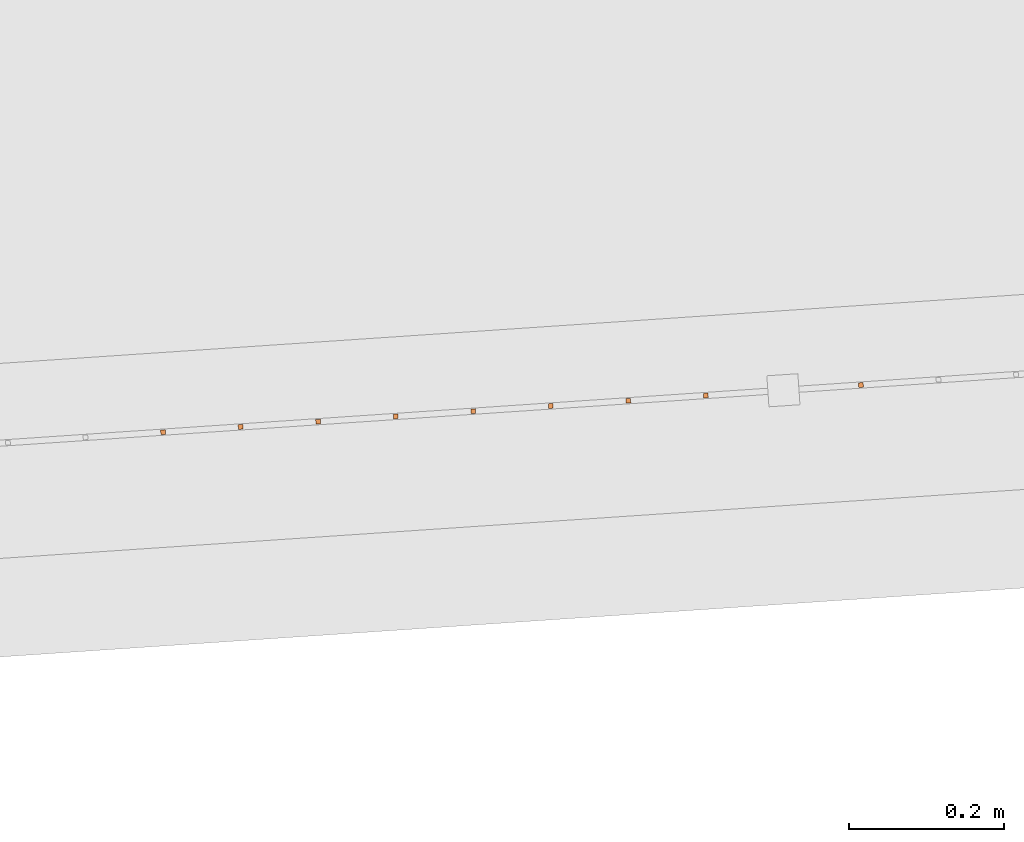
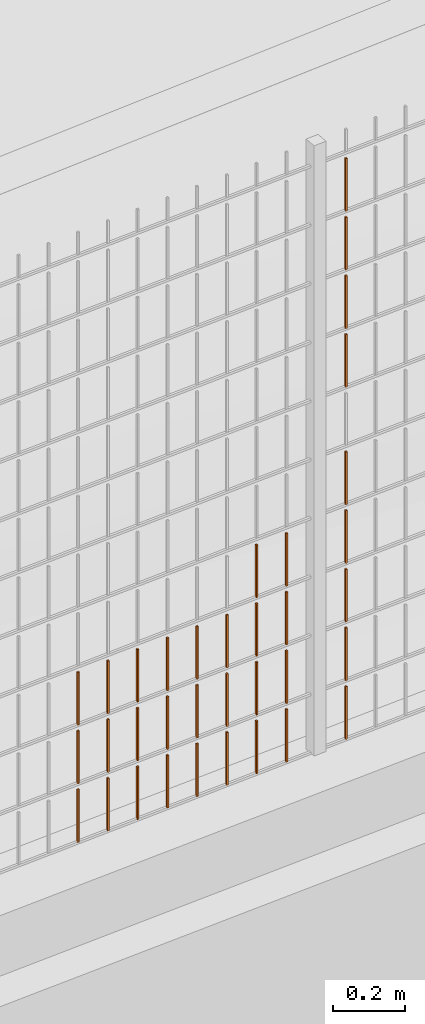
# One storey, part 392 of 1809: 35 proxies, 1 element without a shape of its own.
"""IFC2X3 building model written with IfcOpenShell, lengths in millimetres."""

from ifc_helpers import new_model, entity, si_unit, converted_unit, derived_unit, money_unit, direction, frame, origin_with_axes, place, context, subcontext, project, spatial, faceted_brep, source, transform, mapped, material, type_object, element, aggregate, save


model = new_model("IFC2X3")

# Units and contexts
model_context = context("Model", 3, precision=0.01, world=origin_with_axes(), true_north=direction((0.0, 1.0)))
body_context = subcontext(model_context, "Body", "Model", "MODEL_VIEW")
ifc_project = project(units=[si_unit("LENGTHUNIT", "METRE", prefix="MILLI"), si_unit("AREAUNIT", "SQUARE_METRE"), si_unit("VOLUMEUNIT", "CUBIC_METRE"), converted_unit("PLANEANGLEUNIT", "DEGREE", entity("IfcPlaneAngleMeasure", 0.0174532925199), si_unit("PLANEANGLEUNIT", "RADIAN"), dimensions=[0, 0, 0, 0, 0, 0, 0]), si_unit("SOLIDANGLEUNIT", "STERADIAN"), money_unit("EUR"), converted_unit("TIMEUNIT", "Year", entity("IfcTimeMeasure", 31556926.0), si_unit("TIMEUNIT", "SECOND"), dimensions=[0, 0, 1, 0, 0, 0, 0]), si_unit("MASSUNIT", "GRAM", prefix="KILO"), si_unit("THERMODYNAMICTEMPERATUREUNIT", "DEGREE_CELSIUS"), si_unit("LUMINOUSINTENSITYUNIT", "LUMEN"), si_unit("ENERGYUNIT", "JOULE", prefix="MEGA"), derived_unit("THERMALCONDUCTANCEUNIT", [(si_unit("POWERUNIT", "WATT"), 1), (si_unit("LENGTHUNIT", "METRE"), -1), (si_unit("THERMODYNAMICTEMPERATUREUNIT", "KELVIN"), -1)]), derived_unit("SPECIFICHEATCAPACITYUNIT", [(si_unit("ENERGYUNIT", "JOULE"), 1), (si_unit("MASSUNIT", "GRAM", prefix="KILO"), -1), (si_unit("THERMODYNAMICTEMPERATUREUNIT", "KELVIN"), -1)]), derived_unit("MASSDENSITYUNIT", [(si_unit("MASSUNIT", "GRAM", prefix="KILO"), 1), (si_unit("VOLUMEUNIT", "CUBIC_METRE"), -1)])], contexts=[model_context])

# Site, building, storey
site_placement = place(None, origin_with_axes())
site = spatial("IfcSite", under=ifc_project, at=site_placement, Name="Politse- ja Piirivalveameti ning Päästeameti ühishoone", CompositionType="ELEMENT")
building_placement = place(site_placement, origin_with_axes())
building = spatial("IfcBuilding", under=site, at=building_placement, Name="Politse- ja Piirivalveameti ning Päästeameti ühishoone", CompositionType="ELEMENT")
storey_placement = place(building_placement, origin_with_axes())
storey = spatial("IfcBuildingStorey", under=building, at=storey_placement, Name="Esimene korrus", CompositionType="ELEMENT", Elevation=0.0)

# Proxies
building_element_proxy_type_1 = type_object("IfcBuildingElementProxyType", Name="Railing Type", PredefinedType="NOTDEFINED")
proxy_1_placement = place(storey_placement, frame((89252.001212, -29183.4766571, 203.661247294), z_axis=(0.0, 0.0, 1.0), x_axis=(1.0, 0.0, 0.0)))
proxy_1 = element("IfcBuildingElementProxy", 1, at=proxy_1_placement, inside=storey, type_object=building_element_proxy_type_1, Name="PIIRDEAED")
ifc_material = material(Name="ET-03_Raud")
building_element_proxy_type_2 = type_object("IfcBuildingElementProxyType", Name="IfcBuildingElementProxy", PredefinedType="NOTDEFINED")
shared_shape_1 = source(origin_with_axes(), body_context, "Body", "Brep", [
    faceted_brep([(3.0, 3.0, -0.000752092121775), (-3.0, 3.0, -0.000752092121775), (-3.0, 3.0, 179.99926046), (3.0, 3.0, 179.99926046), (3.0, -3.0, 0.000752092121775), (-3.0, -3.0, 0.000752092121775), (-3.0, -3.0, 180.000764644), (3.0, -3.0, 180.000764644)], [[[0, 1, 2, 3]], [[0, 4, 5, 1]], [[1, 5, 6, 2]], [[3, 2, 6, 7]], [[4, 0, 3, 7]], [[5, 4, 7, 6]]]),
])
proxy_2_placement = place(proxy_1_placement, frame((-12398.4362701, -18135.2423416, 24.1190474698), z_axis=(0.0, 0.0, 1.0), x_axis=(1.0, 0.0, 0.0)))
proxy_2 = element("IfcBuildingElementProxy", 2, at=proxy_2_placement, type_object=building_element_proxy_type_2, material=ifc_material, Name="BALUSTER - 001", context=body_context, shape_type="MappedRepresentation", body=[
    mapped(shared_shape_1, transform((0.0, 0.0, 0.0), x_axis=(-0.0673926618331, 0.997726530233, 0.0), y_axis=(-0.997726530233, -0.0673926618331, 0.0), z_axis=(0.0, 0.0, 1.0))),
])
shared_shape_2 = source(origin_with_axes(), body_context, "Body", "Brep", [
    faceted_brep([(3.0, 3.0, -0.000752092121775), (-3.0, 3.0, -0.000752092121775), (-3.0, 3.0, 179.99926046), (3.0, 3.0, 179.99926046), (3.0, -3.0, 0.000752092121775), (-3.0, -3.0, 0.000752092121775), (-3.0, -3.0, 180.000764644), (3.0, -3.0, 180.000764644)], [[[0, 1, 2, 3]], [[0, 4, 5, 1]], [[1, 5, 6, 2]], [[3, 2, 6, 7]], [[4, 0, 3, 7]], [[5, 4, 7, 6]]]),
])
proxy_3_placement = place(proxy_1_placement, frame((-12597.9815761, -18148.720874, 24.068907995), z_axis=(0.0, 0.0, 1.0), x_axis=(1.0, 0.0, 0.0)))
proxy_3 = element("IfcBuildingElementProxy", 3, at=proxy_3_placement, type_object=building_element_proxy_type_2, material=ifc_material, Name="BALUSTER - 001", context=body_context, shape_type="MappedRepresentation", body=[
    mapped(shared_shape_2, transform((0.0, 0.0, 0.0), x_axis=(-0.0673926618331, 0.997726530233, 0.0), y_axis=(-0.997726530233, -0.0673926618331, 0.0), z_axis=(0.0, 0.0, 1.0))),
])
proxy_4_placement = place(proxy_1_placement, frame((-12597.9815761, -18148.720874, 224.068907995), z_axis=(0.0, 0.0, 1.0), x_axis=(1.0, 0.0, 0.0)))
proxy_4 = element("IfcBuildingElementProxy", 4, at=proxy_4_placement, type_object=building_element_proxy_type_2, material=ifc_material, Name="BALUSTER - 001", context=body_context, shape_type="MappedRepresentation", body=[
    mapped(shared_shape_2, transform((0.0, 0.0, 0.0), x_axis=(-0.0673926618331, 0.997726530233, 0.0), y_axis=(-0.997726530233, -0.0673926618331, 0.0), z_axis=(0.0, 0.0, 1.0))),
])
shared_shape_3 = source(origin_with_axes(), body_context, "Body", "Brep", [
    faceted_brep([(3.0, 3.0, -0.000752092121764), (-3.0, 3.0, -0.000752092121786), (-3.0, 3.0, 179.99926046), (3.0, 3.0, 179.99926046), (3.0, -3.0, 0.000752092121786), (-3.0, -3.0, 0.000752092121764), (-3.0, -3.0, 180.000764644), (3.0, -3.0, 180.000764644)], [[[0, 1, 2, 3]], [[0, 4, 5, 1]], [[1, 5, 6, 2]], [[3, 2, 6, 7]], [[4, 0, 3, 7]], [[5, 4, 7, 6]]]),
])
proxy_5_placement = place(proxy_1_placement, frame((-12498.2089231, -18141.9816078, 24.0939777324), z_axis=(0.0, 0.0, 1.0), x_axis=(1.0, 0.0, 0.0)))
proxy_5 = element("IfcBuildingElementProxy", 5, at=proxy_5_placement, type_object=building_element_proxy_type_2, material=ifc_material, Name="BALUSTER - 001", context=body_context, shape_type="MappedRepresentation", body=[
    mapped(shared_shape_3, transform((0.0, 0.0, 0.0), x_axis=(-0.0673926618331, 0.997726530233, 0.0), y_axis=(-0.997726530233, -0.0673926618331, 0.0), z_axis=(0.0, 0.0, 1.0))),
])
proxy_6_placement = place(proxy_1_placement, frame((-12797.5268822, -18162.1994064, 24.0187685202), z_axis=(0.0, 0.0, 1.0), x_axis=(1.0, 0.0, 0.0)))
proxy_6 = element("IfcBuildingElementProxy", 6, at=proxy_6_placement, type_object=building_element_proxy_type_2, material=ifc_material, Name="BALUSTER - 001", context=body_context, shape_type="MappedRepresentation", body=[
    mapped(shared_shape_3, transform((0.0, 0.0, 0.0), x_axis=(-0.0673926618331, 0.997726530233, 0.0), y_axis=(-0.997726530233, -0.0673926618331, 0.0), z_axis=(0.0, 0.0, 1.0))),
])
shared_shape_4 = source(origin_with_axes(), body_context, "Body", "Brep", [
    faceted_brep([(3.0, 3.0, -0.000752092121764), (-3.0, 3.0, -0.000752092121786), (-3.0, 3.0, 179.99926046), (3.0, 3.0, 179.99926046), (3.0, -3.0, 0.000752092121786), (-3.0, -3.0, 0.000752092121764), (-3.0, -3.0, 180.000764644), (3.0, -3.0, 180.000764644)], [[[0, 1, 2, 3]], [[0, 4, 5, 1]], [[1, 5, 6, 2]], [[3, 2, 6, 7]], [[4, 0, 3, 7]], [[5, 4, 7, 6]]]),
])
proxy_7_placement = place(proxy_1_placement, frame((-12198.890964, -18121.7638093, 1424.16918694), z_axis=(0.0, 0.0, 1.0), x_axis=(1.0, 0.0, 0.0)))
proxy_7 = element("IfcBuildingElementProxy", 7, at=proxy_7_placement, type_object=building_element_proxy_type_2, material=ifc_material, Name="BALUSTER - 001", context=body_context, shape_type="MappedRepresentation", body=[
    mapped(shared_shape_4, transform((0.0, 0.0, 0.0), x_axis=(-0.0673926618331, 0.997726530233, 0.0), y_axis=(-0.997726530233, -0.0673926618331, 0.0), z_axis=(0.0, 0.0, 1.0))),
])
shared_shape_5 = source(origin_with_axes(), body_context, "Body", "Brep", [
    faceted_brep([(3.0, 3.0, -0.000752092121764), (-3.0, 3.0, -0.000752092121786), (-3.0, 3.0, 179.99926046), (3.0, 3.0, 179.99926046), (3.0, -3.0, 0.000752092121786), (-3.0, -3.0, 0.000752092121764), (-3.0, -3.0, 180.000764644), (3.0, -3.0, 180.000764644)], [[[0, 1, 2, 3]], [[0, 4, 5, 1]], [[1, 5, 6, 2]], [[3, 2, 6, 7]], [[4, 0, 3, 7]], [[5, 4, 7, 6]]]),
])
proxy_8_placement = place(proxy_1_placement, frame((-12498.2089231, -18141.9816078, 224.093977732), z_axis=(0.0, 0.0, 1.0), x_axis=(1.0, 0.0, 0.0)))
proxy_8 = element("IfcBuildingElementProxy", 8, at=proxy_8_placement, type_object=building_element_proxy_type_2, material=ifc_material, Name="BALUSTER - 001", context=body_context, shape_type="MappedRepresentation", body=[
    mapped(shared_shape_5, transform((0.0, 0.0, 0.0), x_axis=(-0.0673926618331, 0.997726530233, 0.0), y_axis=(-0.997726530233, -0.0673926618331, 0.0), z_axis=(0.0, 0.0, 1.0))),
])
shared_shape_6 = source(origin_with_axes(), body_context, "Body", "Brep", [
    faceted_brep([(3.0, 3.0, -0.000752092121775), (-3.0, 3.0, -0.000752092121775), (-3.0, 3.0, 179.99926046), (3.0, 3.0, 179.99926046), (3.0, -3.0, 0.000752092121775), (-3.0, -3.0, 0.000752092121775), (-3.0, -3.0, 180.000764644), (3.0, -3.0, 180.000764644)], [[[0, 1, 2, 3]], [[0, 4, 5, 1]], [[1, 5, 6, 2]], [[3, 2, 6, 7]], [[4, 0, 3, 7]], [[5, 4, 7, 6]]]),
])
proxy_9_placement = place(proxy_1_placement, frame((-12997.0721882, -18175.6779387, 423.968629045), z_axis=(0.0, 0.0, 1.0), x_axis=(1.0, 0.0, 0.0)))
proxy_9 = element("IfcBuildingElementProxy", 9, at=proxy_9_placement, type_object=building_element_proxy_type_2, material=ifc_material, Name="BALUSTER - 001", context=body_context, shape_type="MappedRepresentation", body=[
    mapped(shared_shape_6, transform((0.0, 0.0, 0.0), x_axis=(-0.0673926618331, 0.997726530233, 0.0), y_axis=(-0.997726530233, -0.0673926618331, 0.0), z_axis=(0.0, 0.0, 1.0))),
])
shared_shape_7 = source(origin_with_axes(), body_context, "Body", "Brep", [
    faceted_brep([(3.0, 3.0, -0.000752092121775), (-3.0, 3.0, -0.000752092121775), (-3.0, 3.0, 179.99926046), (3.0, 3.0, 179.99926046), (3.0, -3.0, 0.000752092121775), (-3.0, -3.0, 0.000752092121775), (-3.0, -3.0, 180.000764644), (3.0, -3.0, 180.000764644)], [[[0, 1, 2, 3]], [[0, 4, 5, 1]], [[1, 5, 6, 2]], [[3, 2, 6, 7]], [[4, 0, 3, 7]], [[5, 4, 7, 6]]]),
])
proxy_10_placement = place(proxy_1_placement, frame((-12398.4362701, -18135.2423416, 424.11904747), z_axis=(0.0, 0.0, 1.0), x_axis=(1.0, 0.0, 0.0)))
proxy_10 = element("IfcBuildingElementProxy", 10, at=proxy_10_placement, type_object=building_element_proxy_type_2, material=ifc_material, Name="BALUSTER - 001", context=body_context, shape_type="MappedRepresentation", body=[
    mapped(shared_shape_7, transform((0.0, 0.0, 0.0), x_axis=(-0.0673926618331, 0.997726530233, 0.0), y_axis=(-0.997726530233, -0.0673926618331, 0.0), z_axis=(0.0, 0.0, 1.0))),
])
shared_shape_8 = source(origin_with_axes(), body_context, "Body", "Brep", [
    faceted_brep([(3.0, 3.0, -0.000752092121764), (-3.0, 3.0, -0.000752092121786), (-3.0, 3.0, 179.99926046), (3.0, 3.0, 179.99926046), (3.0, -3.0, 0.000752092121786), (-3.0, -3.0, 0.000752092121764), (-3.0, -3.0, 180.000764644), (3.0, -3.0, 180.000764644)], [[[0, 1, 2, 3]], [[0, 4, 5, 1]], [[1, 5, 6, 2]], [[3, 2, 6, 7]], [[4, 0, 3, 7]], [[5, 4, 7, 6]]]),
])
proxy_11_placement = place(proxy_1_placement, frame((-12797.5268822, -18162.1994064, 224.01876852), z_axis=(0.0, 0.0, 1.0), x_axis=(1.0, 0.0, 0.0)))
proxy_11 = element("IfcBuildingElementProxy", 11, at=proxy_11_placement, type_object=building_element_proxy_type_2, material=ifc_material, Name="BALUSTER - 001", context=body_context, shape_type="MappedRepresentation", body=[
    mapped(shared_shape_8, transform((0.0, 0.0, 0.0), x_axis=(-0.0673926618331, 0.997726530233, 0.0), y_axis=(-0.997726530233, -0.0673926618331, 0.0), z_axis=(0.0, 0.0, 1.0))),
])
shared_shape_9 = source(origin_with_axes(), body_context, "Body", "Brep", [
    faceted_brep([(3.0, 3.0, -0.000752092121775), (-3.0, 3.0, -0.000752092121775), (-3.0, 3.0, 179.99926046), (3.0, 3.0, 179.99926046), (3.0, -3.0, 0.000752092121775), (-3.0, -3.0, 0.000752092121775), (-3.0, -3.0, 180.000764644), (3.0, -3.0, 180.000764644)], [[[0, 1, 2, 3]], [[0, 4, 5, 1]], [[1, 5, 6, 2]], [[3, 2, 6, 7]], [[4, 0, 3, 7]], [[5, 4, 7, 6]]]),
])
proxy_12_placement = place(proxy_1_placement, frame((-12198.890964, -18121.7638093, 224.169186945), z_axis=(0.0, 0.0, 1.0), x_axis=(1.0, 0.0, 0.0)))
proxy_12 = element("IfcBuildingElementProxy", 12, at=proxy_12_placement, type_object=building_element_proxy_type_2, material=ifc_material, Name="BALUSTER - 001", context=body_context, shape_type="MappedRepresentation", body=[
    mapped(shared_shape_9, transform((0.0, 0.0, 0.0), x_axis=(-0.0673926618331, 0.997726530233, 0.0), y_axis=(-0.997726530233, -0.0673926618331, 0.0), z_axis=(0.0, 0.0, 1.0))),
])
proxy_13_placement = place(proxy_1_placement, frame((-12198.890964, -18121.7638093, 424.169186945), z_axis=(0.0, 0.0, 1.0), x_axis=(1.0, 0.0, 0.0)))
proxy_13 = element("IfcBuildingElementProxy", 13, at=proxy_13_placement, type_object=building_element_proxy_type_2, material=ifc_material, Name="BALUSTER - 001", context=body_context, shape_type="MappedRepresentation", body=[
    mapped(shared_shape_9, transform((0.0, 0.0, 0.0), x_axis=(-0.0673926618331, 0.997726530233, 0.0), y_axis=(-0.997726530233, -0.0673926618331, 0.0), z_axis=(0.0, 0.0, 1.0))),
])
proxy_14_placement = place(proxy_1_placement, frame((-13096.8448412, -18182.4172049, 423.943559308), z_axis=(0.0, 0.0, 1.0), x_axis=(1.0, 0.0, 0.0)))
proxy_14 = element("IfcBuildingElementProxy", 14, at=proxy_14_placement, type_object=building_element_proxy_type_2, material=ifc_material, Name="BALUSTER - 001", context=body_context, shape_type="MappedRepresentation", body=[
    mapped(shared_shape_9, transform((0.0, 0.0, 0.0), x_axis=(-0.0673926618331, 0.997726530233, 0.0), y_axis=(-0.997726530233, -0.0673926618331, 0.0), z_axis=(0.0, 0.0, 1.0))),
])
shared_shape_10 = source(origin_with_axes(), body_context, "Body", "Brep", [
    faceted_brep([(3.0, 3.0, -0.000752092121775), (-3.0, 3.0, -0.000752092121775), (-3.0, 3.0, 179.99926046), (3.0, 3.0, 179.99926046), (3.0, -3.0, 0.000752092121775), (-3.0, -3.0, 0.000752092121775), (-3.0, -3.0, 180.000764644), (3.0, -3.0, 180.000764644)], [[[0, 1, 2, 3]], [[0, 4, 5, 1]], [[1, 5, 6, 2]], [[3, 2, 6, 7]], [[4, 0, 3, 7]], [[5, 4, 7, 6]]]),
])
proxy_15_placement = place(proxy_1_placement, frame((-12398.4362701, -18135.2423416, 624.11904747), z_axis=(0.0, 0.0, 1.0), x_axis=(1.0, 0.0, 0.0)))
proxy_15 = element("IfcBuildingElementProxy", 15, at=proxy_15_placement, type_object=building_element_proxy_type_2, material=ifc_material, Name="BALUSTER - 001", context=body_context, shape_type="MappedRepresentation", body=[
    mapped(shared_shape_10, transform((0.0, 0.0, 0.0), x_axis=(-0.0673926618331, 0.997726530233, 0.0), y_axis=(-0.997726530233, -0.0673926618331, 0.0), z_axis=(0.0, 0.0, 1.0))),
])
shared_shape_11 = source(origin_with_axes(), body_context, "Body", "Brep", [
    faceted_brep([(3.0, 3.0, -0.000752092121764), (-3.0, 3.0, -0.000752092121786), (-3.0, 3.0, 179.99926046), (3.0, 3.0, 179.99926046), (3.0, -3.0, 0.000752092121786), (-3.0, -3.0, 0.000752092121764), (-3.0, -3.0, 180.000764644), (3.0, -3.0, 180.000764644)], [[[0, 1, 2, 3]], [[0, 4, 5, 1]], [[1, 5, 6, 2]], [[3, 2, 6, 7]], [[4, 0, 3, 7]], [[5, 4, 7, 6]]]),
])
proxy_16_placement = place(proxy_1_placement, frame((-12198.890964, -18121.7638093, 1224.16918694), z_axis=(0.0, 0.0, 1.0), x_axis=(1.0, 0.0, 0.0)))
proxy_16 = element("IfcBuildingElementProxy", 16, at=proxy_16_placement, type_object=building_element_proxy_type_2, material=ifc_material, Name="BALUSTER - 001", context=body_context, shape_type="MappedRepresentation", body=[
    mapped(shared_shape_11, transform((0.0, 0.0, 0.0), x_axis=(-0.0673926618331, 0.997726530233, 0.0), y_axis=(-0.997726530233, -0.0673926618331, 0.0), z_axis=(0.0, 0.0, 1.0))),
])
shared_shape_12 = source(origin_with_axes(), body_context, "Body", "Brep", [
    faceted_brep([(3.0, 3.0, -0.000752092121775), (-3.0, 3.0, -0.000752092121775), (-3.0, 3.0, 179.99926046), (3.0, 3.0, 179.99926046), (3.0, -3.0, 0.000752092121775), (-3.0, -3.0, 0.000752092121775), (-3.0, -3.0, 180.000764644), (3.0, -3.0, 180.000764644)], [[[0, 1, 2, 3]], [[0, 4, 5, 1]], [[1, 5, 6, 2]], [[3, 2, 6, 7]], [[4, 0, 3, 7]], [[5, 4, 7, 6]]]),
])
proxy_17_placement = place(proxy_1_placement, frame((-12198.890964, -18121.7638093, 624.169186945), z_axis=(0.0, 0.0, 1.0), x_axis=(1.0, 0.0, 0.0)))
proxy_17 = element("IfcBuildingElementProxy", 17, at=proxy_17_placement, type_object=building_element_proxy_type_2, material=ifc_material, Name="BALUSTER - 001", context=body_context, shape_type="MappedRepresentation", body=[
    mapped(shared_shape_12, transform((0.0, 0.0, 0.0), x_axis=(-0.0673926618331, 0.997726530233, 0.0), y_axis=(-0.997726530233, -0.0673926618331, 0.0), z_axis=(0.0, 0.0, 1.0))),
])
shared_shape_13 = source(origin_with_axes(), body_context, "Body", "Brep", [
    faceted_brep([(3.0, 3.0, -0.000752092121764), (-3.0, 3.0, -0.000752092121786), (-3.0, 3.0, 179.99926046), (3.0, 3.0, 179.99926046), (3.0, -3.0, 0.000752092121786), (-3.0, -3.0, 0.000752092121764), (-3.0, -3.0, 180.000764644), (3.0, -3.0, 180.000764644)], [[[0, 1, 2, 3]], [[0, 4, 5, 1]], [[1, 5, 6, 2]], [[3, 2, 6, 7]], [[4, 0, 3, 7]], [[5, 4, 7, 6]]]),
])
proxy_18_placement = place(proxy_1_placement, frame((-12198.890964, -18121.7638093, 1824.16918694), z_axis=(0.0, 0.0, 1.0), x_axis=(1.0, 0.0, 0.0)))
proxy_18 = element("IfcBuildingElementProxy", 18, at=proxy_18_placement, type_object=building_element_proxy_type_2, material=ifc_material, Name="BALUSTER - 001", context=body_context, shape_type="MappedRepresentation", body=[
    mapped(shared_shape_13, transform((0.0, 0.0, 0.0), x_axis=(-0.0673926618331, 0.997726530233, 0.0), y_axis=(-0.997726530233, -0.0673926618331, 0.0), z_axis=(0.0, 0.0, 1.0))),
])
shared_shape_14 = source(origin_with_axes(), body_context, "Body", "Brep", [
    faceted_brep([(3.0, 3.0, -0.000752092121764), (-3.0, 3.0, -0.000752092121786), (-3.0, 3.0, 179.99926046), (3.0, 3.0, 179.99926046), (3.0, -3.0, 0.000752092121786), (-3.0, -3.0, 0.000752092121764), (-3.0, -3.0, 180.000764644), (3.0, -3.0, 180.000764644)], [[[0, 1, 2, 3]], [[0, 4, 5, 1]], [[1, 5, 6, 2]], [[3, 2, 6, 7]], [[4, 0, 3, 7]], [[5, 4, 7, 6]]]),
])
proxy_19_placement = place(proxy_1_placement, frame((-12498.2089231, -18141.9816078, 624.093977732), z_axis=(0.0, 0.0, 1.0), x_axis=(1.0, 0.0, 0.0)))
proxy_19 = element("IfcBuildingElementProxy", 19, at=proxy_19_placement, type_object=building_element_proxy_type_2, material=ifc_material, Name="BALUSTER - 001", context=body_context, shape_type="MappedRepresentation", body=[
    mapped(shared_shape_14, transform((0.0, 0.0, 0.0), x_axis=(-0.0673926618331, 0.997726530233, 0.0), y_axis=(-0.997726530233, -0.0673926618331, 0.0), z_axis=(0.0, 0.0, 1.0))),
])
shared_shape_15 = source(origin_with_axes(), body_context, "Body", "Brep", [
    faceted_brep([(3.0, 3.0, -0.000752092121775), (-3.0, 3.0, -0.000752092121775), (-3.0, 3.0, 179.99926046), (3.0, 3.0, 179.99926046), (3.0, -3.0, 0.000752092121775), (-3.0, -3.0, 0.000752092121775), (-3.0, -3.0, 180.000764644), (3.0, -3.0, 180.000764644)], [[[0, 1, 2, 3]], [[0, 4, 5, 1]], [[1, 5, 6, 2]], [[3, 2, 6, 7]], [[4, 0, 3, 7]], [[5, 4, 7, 6]]]),
])
proxy_20_placement = place(proxy_1_placement, frame((-12198.890964, -18121.7638093, 24.1691869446), z_axis=(0.0, 0.0, 1.0), x_axis=(1.0, 0.0, 0.0)))
proxy_20 = element("IfcBuildingElementProxy", 20, at=proxy_20_placement, type_object=building_element_proxy_type_2, material=ifc_material, Name="BALUSTER - 001", context=body_context, shape_type="MappedRepresentation", body=[
    mapped(shared_shape_15, transform((0.0, 0.0, 0.0), x_axis=(-0.0673926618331, 0.997726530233, 0.0), y_axis=(-0.997726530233, -0.0673926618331, 0.0), z_axis=(0.0, 0.0, 1.0))),
])
proxy_21_placement = place(proxy_1_placement, frame((-12997.0721882, -18175.6779387, 23.9686290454), z_axis=(0.0, 0.0, 1.0), x_axis=(1.0, 0.0, 0.0)))
proxy_21 = element("IfcBuildingElementProxy", 21, at=proxy_21_placement, type_object=building_element_proxy_type_2, material=ifc_material, Name="BALUSTER - 001", context=body_context, shape_type="MappedRepresentation", body=[
    mapped(shared_shape_15, transform((0.0, 0.0, 0.0), x_axis=(-0.0673926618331, 0.997726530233, 0.0), y_axis=(-0.997726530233, -0.0673926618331, 0.0), z_axis=(0.0, 0.0, 1.0))),
])
proxy_22_placement = place(proxy_1_placement, frame((-13096.8448412, -18182.4172049, 23.943559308), z_axis=(0.0, 0.0, 1.0), x_axis=(1.0, 0.0, 0.0)))
proxy_22 = element("IfcBuildingElementProxy", 22, at=proxy_22_placement, type_object=building_element_proxy_type_2, material=ifc_material, Name="BALUSTER - 001", context=body_context, shape_type="MappedRepresentation", body=[
    mapped(shared_shape_15, transform((0.0, 0.0, 0.0), x_axis=(-0.0673926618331, 0.997726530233, 0.0), y_axis=(-0.997726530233, -0.0673926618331, 0.0), z_axis=(0.0, 0.0, 1.0))),
])
shared_shape_16 = source(origin_with_axes(), body_context, "Body", "Brep", [
    faceted_brep([(3.0, 3.0, -0.000752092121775), (-3.0, 3.0, -0.000752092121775), (-3.0, 3.0, 179.99926046), (3.0, 3.0, 179.99926046), (3.0, -3.0, 0.000752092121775), (-3.0, -3.0, 0.000752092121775), (-3.0, -3.0, 180.000764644), (3.0, -3.0, 180.000764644)], [[[0, 1, 2, 3]], [[0, 4, 5, 1]], [[1, 5, 6, 2]], [[3, 2, 6, 7]], [[4, 0, 3, 7]], [[5, 4, 7, 6]]]),
])
proxy_23_placement = place(proxy_1_placement, frame((-13096.8448412, -18182.4172049, 223.943559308), z_axis=(0.0, 0.0, 1.0), x_axis=(1.0, 0.0, 0.0)))
proxy_23 = element("IfcBuildingElementProxy", 23, at=proxy_23_placement, type_object=building_element_proxy_type_2, material=ifc_material, Name="BALUSTER - 001", context=body_context, shape_type="MappedRepresentation", body=[
    mapped(shared_shape_16, transform((0.0, 0.0, 0.0), x_axis=(-0.0673926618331, 0.997726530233, 0.0), y_axis=(-0.997726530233, -0.0673926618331, 0.0), z_axis=(0.0, 0.0, 1.0))),
])
shared_shape_17 = source(origin_with_axes(), body_context, "Body", "Brep", [
    faceted_brep([(3.0, 3.0, -0.000752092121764), (-3.0, 3.0, -0.000752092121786), (-3.0, 3.0, 179.99926046), (3.0, 3.0, 179.99926046), (3.0, -3.0, 0.000752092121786), (-3.0, -3.0, 0.000752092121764), (-3.0, -3.0, 180.000764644), (3.0, -3.0, 180.000764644)], [[[0, 1, 2, 3]], [[0, 4, 5, 1]], [[1, 5, 6, 2]], [[3, 2, 6, 7]], [[4, 0, 3, 7]], [[5, 4, 7, 6]]]),
])
proxy_24_placement = place(proxy_1_placement, frame((-12498.2089231, -18141.9816078, 424.093977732), z_axis=(0.0, 0.0, 1.0), x_axis=(1.0, 0.0, 0.0)))
proxy_24 = element("IfcBuildingElementProxy", 24, at=proxy_24_placement, type_object=building_element_proxy_type_2, material=ifc_material, Name="BALUSTER - 001", context=body_context, shape_type="MappedRepresentation", body=[
    mapped(shared_shape_17, transform((0.0, 0.0, 0.0), x_axis=(-0.0673926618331, 0.997726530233, 0.0), y_axis=(-0.997726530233, -0.0673926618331, 0.0), z_axis=(0.0, 0.0, 1.0))),
])
proxy_25_placement = place(proxy_1_placement, frame((-12797.5268822, -18162.1994064, 424.01876852), z_axis=(0.0, 0.0, 1.0), x_axis=(1.0, 0.0, 0.0)))
proxy_25 = element("IfcBuildingElementProxy", 25, at=proxy_25_placement, type_object=building_element_proxy_type_2, material=ifc_material, Name="BALUSTER - 001", context=body_context, shape_type="MappedRepresentation", body=[
    mapped(shared_shape_17, transform((0.0, 0.0, 0.0), x_axis=(-0.0673926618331, 0.997726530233, 0.0), y_axis=(-0.997726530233, -0.0673926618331, 0.0), z_axis=(0.0, 0.0, 1.0))),
])
shared_shape_18 = source(origin_with_axes(), body_context, "Body", "Brep", [
    faceted_brep([(3.0, 3.0, -0.000752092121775), (-3.0, 3.0, -0.000752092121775), (-3.0, 3.0, 179.99926046), (3.0, 3.0, 179.99926046), (3.0, -3.0, 0.000752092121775), (-3.0, -3.0, 0.000752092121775), (-3.0, -3.0, 180.000764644), (3.0, -3.0, 180.000764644)], [[[0, 1, 2, 3]], [[0, 4, 5, 1]], [[1, 5, 6, 2]], [[3, 2, 6, 7]], [[4, 0, 3, 7]], [[5, 4, 7, 6]]]),
])
proxy_26_placement = place(proxy_1_placement, frame((-12597.9815761, -18148.720874, 424.068907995), z_axis=(0.0, 0.0, 1.0), x_axis=(1.0, 0.0, 0.0)))
proxy_26 = element("IfcBuildingElementProxy", 26, at=proxy_26_placement, type_object=building_element_proxy_type_2, material=ifc_material, Name="BALUSTER - 001", context=body_context, shape_type="MappedRepresentation", body=[
    mapped(shared_shape_18, transform((0.0, 0.0, 0.0), x_axis=(-0.0673926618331, 0.997726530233, 0.0), y_axis=(-0.997726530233, -0.0673926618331, 0.0), z_axis=(0.0, 0.0, 1.0))),
])
shared_shape_19 = source(origin_with_axes(), body_context, "Body", "Brep", [
    faceted_brep([(3.0, 3.0, -0.000752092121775), (-3.0, 3.0, -0.000752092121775), (-3.0, 3.0, 179.99926046), (3.0, 3.0, 179.99926046), (3.0, -3.0, 0.000752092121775), (-3.0, -3.0, 0.000752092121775), (-3.0, -3.0, 180.000764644), (3.0, -3.0, 180.000764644)], [[[0, 1, 2, 3]], [[0, 4, 5, 1]], [[1, 5, 6, 2]], [[3, 2, 6, 7]], [[4, 0, 3, 7]], [[5, 4, 7, 6]]]),
])
proxy_27_placement = place(proxy_1_placement, frame((-12198.890964, -18121.7638093, 824.169186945), z_axis=(0.0, 0.0, 1.0), x_axis=(1.0, 0.0, 0.0)))
proxy_27 = element("IfcBuildingElementProxy", 27, at=proxy_27_placement, type_object=building_element_proxy_type_2, material=ifc_material, Name="BALUSTER - 001", context=body_context, shape_type="MappedRepresentation", body=[
    mapped(shared_shape_19, transform((0.0, 0.0, 0.0), x_axis=(-0.0673926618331, 0.997726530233, 0.0), y_axis=(-0.997726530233, -0.0673926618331, 0.0), z_axis=(0.0, 0.0, 1.0))),
])
shared_shape_20 = source(origin_with_axes(), body_context, "Body", "Brep", [
    faceted_brep([(3.0, 3.0, -0.000752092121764), (-3.0, 3.0, -0.000752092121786), (-3.0, 3.0, 179.99926046), (3.0, 3.0, 179.99926046), (3.0, -3.0, 0.000752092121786), (-3.0, -3.0, 0.000752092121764), (-3.0, -3.0, 180.000764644), (3.0, -3.0, 180.000764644)], [[[0, 1, 2, 3]], [[0, 4, 5, 1]], [[1, 5, 6, 2]], [[3, 2, 6, 7]], [[4, 0, 3, 7]], [[5, 4, 7, 6]]]),
])
proxy_28_placement = place(proxy_1_placement, frame((-12697.7542291, -18155.4601402, 24.0438382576), z_axis=(0.0, 0.0, 1.0), x_axis=(1.0, 0.0, 0.0)))
proxy_28 = element("IfcBuildingElementProxy", 28, at=proxy_28_placement, type_object=building_element_proxy_type_2, material=ifc_material, Name="BALUSTER - 001", context=body_context, shape_type="MappedRepresentation", body=[
    mapped(shared_shape_20, transform((0.0, 0.0, 0.0), x_axis=(-0.0673926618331, 0.997726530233, 0.0), y_axis=(-0.997726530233, -0.0673926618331, 0.0), z_axis=(0.0, 0.0, 1.0))),
])
shared_shape_21 = source(origin_with_axes(), body_context, "Body", "Brep", [
    faceted_brep([(3.0, 3.0, -0.000752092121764), (-3.0, 3.0, -0.000752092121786), (-3.0, 3.0, 179.99926046), (3.0, 3.0, 179.99926046), (3.0, -3.0, 0.000752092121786), (-3.0, -3.0, 0.000752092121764), (-3.0, -3.0, 180.000764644), (3.0, -3.0, 180.000764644)], [[[0, 1, 2, 3]], [[0, 4, 5, 1]], [[1, 5, 6, 2]], [[3, 2, 6, 7]], [[4, 0, 3, 7]], [[5, 4, 7, 6]]]),
])
proxy_29_placement = place(proxy_1_placement, frame((-12697.7542291, -18155.4601402, 224.043838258), z_axis=(0.0, 0.0, 1.0), x_axis=(1.0, 0.0, 0.0)))
proxy_29 = element("IfcBuildingElementProxy", 29, at=proxy_29_placement, type_object=building_element_proxy_type_2, material=ifc_material, Name="BALUSTER - 001", context=body_context, shape_type="MappedRepresentation", body=[
    mapped(shared_shape_21, transform((0.0, 0.0, 0.0), x_axis=(-0.0673926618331, 0.997726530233, 0.0), y_axis=(-0.997726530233, -0.0673926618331, 0.0), z_axis=(0.0, 0.0, 1.0))),
])
proxy_30_placement = place(proxy_1_placement, frame((-12697.7542291, -18155.4601402, 424.043838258), z_axis=(0.0, 0.0, 1.0), x_axis=(1.0, 0.0, 0.0)))
proxy_30 = element("IfcBuildingElementProxy", 30, at=proxy_30_placement, type_object=building_element_proxy_type_2, material=ifc_material, Name="BALUSTER - 001", context=body_context, shape_type="MappedRepresentation", body=[
    mapped(shared_shape_21, transform((0.0, 0.0, 0.0), x_axis=(-0.0673926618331, 0.997726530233, 0.0), y_axis=(-0.997726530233, -0.0673926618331, 0.0), z_axis=(0.0, 0.0, 1.0))),
])
shared_shape_22 = source(origin_with_axes(), body_context, "Body", "Brep", [
    faceted_brep([(3.0, 3.0, -0.000752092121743), (-3.0, 3.0, -0.000752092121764), (-3.0, 3.0, 179.99926046), (3.0, 3.0, 179.99926046), (3.0, -3.0, 0.000752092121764), (-3.0, -3.0, 0.000752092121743), (-3.0, -3.0, 180.000764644), (3.0, -3.0, 180.000764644)], [[[0, 1, 2, 3]], [[0, 4, 5, 1]], [[1, 5, 6, 2]], [[3, 2, 6, 7]], [[4, 0, 3, 7]], [[5, 4, 7, 6]]]),
])
proxy_31_placement = place(proxy_1_placement, frame((-12897.2995352, -18168.9386726, 23.9936987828), z_axis=(0.0, 0.0, 1.0), x_axis=(1.0, 0.0, 0.0)))
proxy_31 = element("IfcBuildingElementProxy", 31, at=proxy_31_placement, type_object=building_element_proxy_type_2, material=ifc_material, Name="BALUSTER - 001", context=body_context, shape_type="MappedRepresentation", body=[
    mapped(shared_shape_22, transform((0.0, 0.0, 0.0), x_axis=(-0.0673926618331, 0.997726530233, 0.0), y_axis=(-0.997726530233, -0.0673926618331, 0.0), z_axis=(0.0, 0.0, 1.0))),
])
shared_shape_23 = source(origin_with_axes(), body_context, "Body", "Brep", [
    faceted_brep([(3.0, 3.0, -0.000752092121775), (-3.0, 3.0, -0.000752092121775), (-3.0, 3.0, 179.99926046), (3.0, 3.0, 179.99926046), (3.0, -3.0, 0.000752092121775), (-3.0, -3.0, 0.000752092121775), (-3.0, -3.0, 180.000764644), (3.0, -3.0, 180.000764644)], [[[0, 1, 2, 3]], [[0, 4, 5, 1]], [[1, 5, 6, 2]], [[3, 2, 6, 7]], [[4, 0, 3, 7]], [[5, 4, 7, 6]]]),
])
proxy_32_placement = place(proxy_1_placement, frame((-12398.4362701, -18135.2423416, 224.11904747), z_axis=(0.0, 0.0, 1.0), x_axis=(1.0, 0.0, 0.0)))
proxy_32 = element("IfcBuildingElementProxy", 32, at=proxy_32_placement, type_object=building_element_proxy_type_2, material=ifc_material, Name="BALUSTER - 001", context=body_context, shape_type="MappedRepresentation", body=[
    mapped(shared_shape_23, transform((0.0, 0.0, 0.0), x_axis=(-0.0673926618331, 0.997726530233, 0.0), y_axis=(-0.997726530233, -0.0673926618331, 0.0), z_axis=(0.0, 0.0, 1.0))),
])
shared_shape_24 = source(origin_with_axes(), body_context, "Body", "Brep", [
    faceted_brep([(3.0, 3.0, -0.000752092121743), (-3.0, 3.0, -0.000752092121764), (-3.0, 3.0, 179.99926046), (3.0, 3.0, 179.99926046), (3.0, -3.0, 0.000752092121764), (-3.0, -3.0, 0.000752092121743), (-3.0, -3.0, 180.000764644), (3.0, -3.0, 180.000764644)], [[[0, 1, 2, 3]], [[0, 4, 5, 1]], [[1, 5, 6, 2]], [[3, 2, 6, 7]], [[4, 0, 3, 7]], [[5, 4, 7, 6]]]),
])
proxy_33_placement = place(proxy_1_placement, frame((-12897.2995352, -18168.9386726, 223.993698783), z_axis=(0.0, 0.0, 1.0), x_axis=(1.0, 0.0, 0.0)))
proxy_33 = element("IfcBuildingElementProxy", 33, at=proxy_33_placement, type_object=building_element_proxy_type_2, material=ifc_material, Name="BALUSTER - 001", context=body_context, shape_type="MappedRepresentation", body=[
    mapped(shared_shape_24, transform((0.0, 0.0, 0.0), x_axis=(-0.0673926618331, 0.997726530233, 0.0), y_axis=(-0.997726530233, -0.0673926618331, 0.0), z_axis=(0.0, 0.0, 1.0))),
])
proxy_34_placement = place(proxy_1_placement, frame((-12897.2995352, -18168.9386726, 423.993698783), z_axis=(0.0, 0.0, 1.0), x_axis=(1.0, 0.0, 0.0)))
proxy_34 = element("IfcBuildingElementProxy", 34, at=proxy_34_placement, type_object=building_element_proxy_type_2, material=ifc_material, Name="BALUSTER - 001", context=body_context, shape_type="MappedRepresentation", body=[
    mapped(shared_shape_24, transform((0.0, 0.0, 0.0), x_axis=(-0.0673926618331, 0.997726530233, 0.0), y_axis=(-0.997726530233, -0.0673926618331, 0.0), z_axis=(0.0, 0.0, 1.0))),
])
shared_shape_25 = source(origin_with_axes(), body_context, "Body", "Brep", [
    faceted_brep([(3.0, 3.0, -0.000752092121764), (-3.0, 3.0, -0.000752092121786), (-3.0, 3.0, 179.99926046), (3.0, 3.0, 179.99926046), (3.0, -3.0, 0.000752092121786), (-3.0, -3.0, 0.000752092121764), (-3.0, -3.0, 180.000764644), (3.0, -3.0, 180.000764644)], [[[0, 1, 2, 3]], [[0, 4, 5, 1]], [[1, 5, 6, 2]], [[3, 2, 6, 7]], [[4, 0, 3, 7]], [[5, 4, 7, 6]]]),
])
proxy_35_placement = place(proxy_1_placement, frame((-12198.890964, -18121.7638093, 1624.16918694), z_axis=(0.0, 0.0, 1.0), x_axis=(1.0, 0.0, 0.0)))
proxy_35 = element("IfcBuildingElementProxy", 35, at=proxy_35_placement, type_object=building_element_proxy_type_2, material=ifc_material, Name="BALUSTER - 001", context=body_context, shape_type="MappedRepresentation", body=[
    mapped(shared_shape_25, transform((0.0, 0.0, 0.0), x_axis=(-0.0673926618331, 0.997726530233, 0.0), y_axis=(-0.997726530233, -0.0673926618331, 0.0), z_axis=(0.0, 0.0, 1.0))),
])
shared_shape_26 = source(origin_with_axes(), body_context, "Body", "Brep", [
    faceted_brep([(3.0, 3.0, -0.000752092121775), (-3.0, 3.0, -0.000752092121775), (-3.0, 3.0, 179.99926046), (3.0, 3.0, 179.99926046), (3.0, -3.0, 0.000752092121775), (-3.0, -3.0, 0.000752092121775), (-3.0, -3.0, 180.000764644), (3.0, -3.0, 180.000764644)], [[[0, 1, 2, 3]], [[0, 4, 5, 1]], [[1, 5, 6, 2]], [[3, 2, 6, 7]], [[4, 0, 3, 7]], [[5, 4, 7, 6]]]),
])
proxy_36_placement = place(proxy_1_placement, frame((-12997.0721882, -18175.6779387, 223.968629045), z_axis=(0.0, 0.0, 1.0), x_axis=(1.0, 0.0, 0.0)))
proxy_36 = element("IfcBuildingElementProxy", 36, at=proxy_36_placement, type_object=building_element_proxy_type_2, material=ifc_material, Name="BALUSTER - 001", context=body_context, shape_type="MappedRepresentation", body=[
    mapped(shared_shape_26, transform((0.0, 0.0, 0.0), x_axis=(-0.0673926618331, 0.997726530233, 0.0), y_axis=(-0.997726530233, -0.0673926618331, 0.0), z_axis=(0.0, 0.0, 1.0))),
])
aggregate(proxy_1, [proxy_20, proxy_12, proxy_13, proxy_17, proxy_27, proxy_16, proxy_7, proxy_35, proxy_18, proxy_2, proxy_5, proxy_3, proxy_28, proxy_6, proxy_31, proxy_21, proxy_22, proxy_32, proxy_8, proxy_4, proxy_29, proxy_11, proxy_33, proxy_36, proxy_23, proxy_10, proxy_24, proxy_26, proxy_30, proxy_25, proxy_34, proxy_9, proxy_14, proxy_15, proxy_19])

save(model, "model.ifc")
